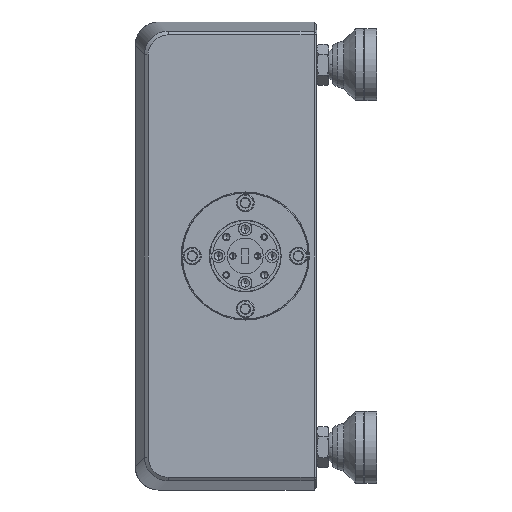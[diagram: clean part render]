
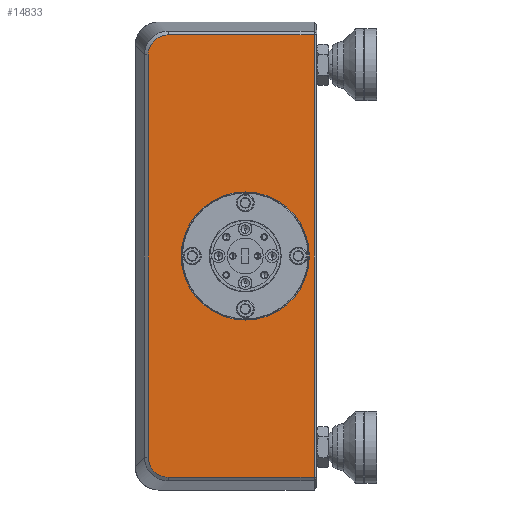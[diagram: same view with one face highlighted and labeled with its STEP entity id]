
A CAD part, left-side view. The second image highlights one B-rep face of the part: STEP entity #14833.
In plain terms, the highlighted planar face has unit normal (-1, 0, 0).
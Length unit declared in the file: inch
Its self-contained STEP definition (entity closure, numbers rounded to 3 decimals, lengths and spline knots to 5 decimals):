
#815 = CIRCLE ( 'NONE', #10292, 0.67 ) ;
#1484 = VERTEX_POINT ( 'NONE', #32061 ) ;
#1594 = CARTESIAN_POINT ( 'NONE',  ( -6.94473, 3.20938, -2.1034 ) ) ;
#2086 = CARTESIAN_POINT ( 'NONE',  ( -6.94473, 3.09329, -2.29129 ) ) ;
#3236 = FACE_BOUND ( 'NONE', #81859, .T. ) ;
#4180 = VERTEX_POINT ( 'NONE', #52712 ) ;
#5096 = DIRECTION ( 'NONE',  ( 0., -1., 0. ) ) ;
#5656 = VECTOR ( 'NONE', #87834, 39.37008 ) ;
#9313 = VERTEX_POINT ( 'NONE', #68229 ) ;
#10292 = AXIS2_PLACEMENT_3D ( 'NONE', #81209, #35149, #73381 ) ;
#10445 = CARTESIAN_POINT ( 'NONE',  ( -6.94473, 3.18192, -2.20829 ) ) ;
#11911 = CARTESIAN_POINT ( 'NONE',  ( -6.94473, 3.00046, -2.31232 ) ) ;
#13119 = EDGE_CURVE ( 'NONE', #17609, #68840, #86967, .T. ) ;
#13652 = CARTESIAN_POINT ( 'NONE',  ( -6.94473, 3.09328, 2.2913 ) ) ;
#14625 = CARTESIAN_POINT ( 'NONE',  ( -6.94473, 3.16667, 2.23117 ) ) ;
#14833 = ADVANCED_FACE ( 'NONE', ( #86202, #3236 ), #78324, .F. ) ;
#15715 = B_SPLINE_CURVE_WITH_KNOTS ( 'NONE', 3,
 ( #75207, #89224, #87758, #20556, #51440, #13652, #88751, #58832, #95556, #21553, #14625, #97004, #36226, #22017, #88256, #81338, #66634, #28389 ),
 .UNSPECIFIED., .F., .F.,
 ( 4, 2, 2, 2, 2, 2, 2, 2, 4 ),
 ( 0., 0.125, 0.25, 0.375, 0.5, 0.625, 0.75, 0.875, 1. ),
 .UNSPECIFIED. ) ;
#17609 = VERTEX_POINT ( 'NONE', #24877 ) ;
#17839 = CARTESIAN_POINT ( 'NONE',  ( -6.94473, 3.13879, -2.26097 ) ) ;
#18445 = VECTOR ( 'NONE', #27507, 39.37008 ) ;
#19090 = ORIENTED_EDGE ( 'NONE', *, *, #67886, .T. ) ;
#19569 = VERTEX_POINT ( 'NONE', #61924 ) ;
#19686 = ORIENTED_EDGE ( 'NONE', *, *, #45040, .T. ) ;
#20556 = CARTESIAN_POINT ( 'NONE',  ( -6.94473, 3.05495, 2.30563 ) ) ;
#21441 = AXIS2_PLACEMENT_3D ( 'NONE', #81599, #63131, #41518 ) ;
#21553 = CARTESIAN_POINT ( 'NONE',  ( -6.94473, 3.15802, 2.24174 ) ) ;
#21618 = CARTESIAN_POINT ( 'NONE',  ( -6.94473, 3.20938, 0. ) ) ;
#21892 = B_SPLINE_CURVE_WITH_KNOTS ( 'NONE', 3,
 ( #1594, #61504, #55104, #77142, #69322, #90946, #10445, #76667, #85028, #17839, #47750, #91438, #2086, #32060, #23761, #53675, #47245, #11911 ),
 .UNSPECIFIED., .F., .F.,
 ( 4, 2, 2, 2, 2, 2, 2, 2, 4 ),
 ( 0., 0.125, 0.25, 0.375, 0.5, 0.625, 0.75, 0.875, 1. ),
 .UNSPECIFIED. ) ;
#21959 = EDGE_CURVE ( 'NONE', #93373, #4180, #15715, .T. ) ;
#22017 = CARTESIAN_POINT ( 'NONE',  ( -6.94473, 3.19874, 2.17101 ) ) ;
#23761 = CARTESIAN_POINT ( 'NONE',  ( -6.94473, 3.05498, -2.30563 ) ) ;
#24877 = CARTESIAN_POINT ( 'NONE',  ( -6.94473, 2.1943, -0.67 ) ) ;
#26856 = DIRECTION ( 'NONE',  ( -1., 0., 0. ) ) ;
#27507 = DIRECTION ( 'NONE',  ( 0., 0., 1. ) ) ;
#28389 = CARTESIAN_POINT ( 'NONE',  ( -6.94473, 3.20938, 2.1034 ) ) ;
#31222 = ORIENTED_EDGE ( 'NONE', *, *, #13119, .F. ) ;
#32060 = CARTESIAN_POINT ( 'NONE',  ( -6.94473, 3.06807, -2.30169 ) ) ;
#32061 = CARTESIAN_POINT ( 'NONE',  ( -6.94473, 3.20938, -2.1034 ) ) ;
#35149 = DIRECTION ( 'NONE',  ( -1., 0., 0. ) ) ;
#35570 = CARTESIAN_POINT ( 'NONE',  ( -6.94473, 2.3943, -2.31232 ) ) ;
#36226 = CARTESIAN_POINT ( 'NONE',  ( -6.94473, 3.18834, 2.19624 ) ) ;
#39705 = VERTEX_POINT ( 'NONE', #89933 ) ;
#41518 = DIRECTION ( 'NONE',  ( 0., 1., 0. ) ) ;
#45040 = EDGE_CURVE ( 'NONE', #1484, #39705, #21892, .T. ) ;
#46172 = ORIENTED_EDGE ( 'NONE', *, *, #61991, .T. ) ;
#47245 = CARTESIAN_POINT ( 'NONE',  ( -6.94473, 3.01423, -2.31232 ) ) ;
#47750 = CARTESIAN_POINT ( 'NONE',  ( -6.94473, 3.12822, -2.26962 ) ) ;
#49349 = AXIS2_PLACEMENT_3D ( 'NONE', #63148, #26856, #56793 ) ;
#50153 = EDGE_CURVE ( 'NONE', #39705, #19569, #86606, .T. ) ;
#51440 = CARTESIAN_POINT ( 'NONE',  ( -6.94473, 3.06808, 2.30168 ) ) ;
#52655 = LINE ( 'NONE', #77071, #67406 ) ;
#52712 = CARTESIAN_POINT ( 'NONE',  ( -6.94473, 3.20938, 2.1034 ) ) ;
#53675 = CARTESIAN_POINT ( 'NONE',  ( -6.94473, 3.02789, -2.31099 ) ) ;
#55104 = CARTESIAN_POINT ( 'NONE',  ( -6.94473, 3.20803, -2.13082 ) ) ;
#56793 = DIRECTION ( 'NONE',  ( 0., 0., 1. ) ) ;
#57839 = EDGE_CURVE ( 'NONE', #68840, #17609, #815, .T. ) ;
#58832 = CARTESIAN_POINT ( 'NONE',  ( -6.94473, 3.12822, 2.26962 ) ) ;
#59323 = EDGE_CURVE ( 'NONE', #4180, #1484, #65271, .T. ) ;
#60146 = CARTESIAN_POINT ( 'NONE',  ( -6.94473, 3.00046, 2.31232 ) ) ;
#61504 = CARTESIAN_POINT ( 'NONE',  ( -6.94473, 3.20938, -2.11713 ) ) ;
#61924 = CARTESIAN_POINT ( 'NONE',  ( -6.94473, 1.4743, -2.31232 ) ) ;
#61991 = EDGE_CURVE ( 'NONE', #19569, #9313, #79951, .T. ) ;
#62116 = ORIENTED_EDGE ( 'NONE', *, *, #50153, .T. ) ;
#63131 = DIRECTION ( 'NONE',  ( 1., 0., 0. ) ) ;
#63148 = CARTESIAN_POINT ( 'NONE',  ( -6.94473, 2.1943, 0. ) ) ;
#65271 = LINE ( 'NONE', #21618, #5656 ) ;
#66634 = CARTESIAN_POINT ( 'NONE',  ( -6.94473, 3.20938, 2.11717 ) ) ;
#67406 = VECTOR ( 'NONE', #89938, 39.37008 ) ;
#67597 = VECTOR ( 'NONE', #5096, 39.37008 ) ;
#67886 = EDGE_CURVE ( 'NONE', #9313, #93373, #52655, .T. ) ;
#68229 = CARTESIAN_POINT ( 'NONE',  ( -6.94473, 1.4743, 2.31232 ) ) ;
#68840 = VERTEX_POINT ( 'NONE', #89051 ) ;
#69322 = CARTESIAN_POINT ( 'NONE',  ( -6.94473, 3.19873, -2.17102 ) ) ;
#73381 = DIRECTION ( 'NONE',  ( 0., 0., 1. ) ) ;
#74076 = CARTESIAN_POINT ( 'NONE',  ( -6.94473, 1.4743, 0. ) ) ;
#75207 = CARTESIAN_POINT ( 'NONE',  ( -6.94473, 3.00046, 2.31232 ) ) ;
#76667 = CARTESIAN_POINT ( 'NONE',  ( -6.94473, 3.16667, -2.23117 ) ) ;
#77071 = CARTESIAN_POINT ( 'NONE',  ( -6.94473, 2.3943, 2.31232 ) ) ;
#77142 = CARTESIAN_POINT ( 'NONE',  ( -6.94473, 3.20269, -2.1579 ) ) ;
#78324 = PLANE ( 'NONE',  #21441 ) ;
#79951 = LINE ( 'NONE', #74076, #18445 ) ;
#81209 = CARTESIAN_POINT ( 'NONE',  ( -6.94473, 2.1943, 0. ) ) ;
#81338 = CARTESIAN_POINT ( 'NONE',  ( -6.94473, 3.20804, 2.13083 ) ) ;
#81499 = ORIENTED_EDGE ( 'NONE', *, *, #59323, .T. ) ;
#81599 = CARTESIAN_POINT ( 'NONE',  ( -6.94473, 2.3943, 0. ) ) ;
#81859 = EDGE_LOOP ( 'NONE', ( #96860, #31222 ) ) ;
#85028 = CARTESIAN_POINT ( 'NONE',  ( -6.94473, 3.15802, -2.24174 ) ) ;
#86202 = FACE_OUTER_BOUND ( 'NONE', #88619, .T. ) ;
#86606 = LINE ( 'NONE', #35570, #67597 ) ;
#86967 = CIRCLE ( 'NONE', #49349, 0.67 ) ;
#87758 = CARTESIAN_POINT ( 'NONE',  ( -6.94473, 3.02787, 2.31098 ) ) ;
#87834 = DIRECTION ( 'NONE',  ( 0., 0., -1. ) ) ;
#88256 = CARTESIAN_POINT ( 'NONE',  ( -6.94473, 3.20268, 2.15793 ) ) ;
#88619 = EDGE_LOOP ( 'NONE', ( #19686, #62116, #46172, #19090, #94157, #81499 ) ) ;
#88751 = CARTESIAN_POINT ( 'NONE',  ( -6.94473, 3.10535, 2.28486 ) ) ;
#89051 = CARTESIAN_POINT ( 'NONE',  ( -6.94473, 2.1943, 0.67 ) ) ;
#89224 = CARTESIAN_POINT ( 'NONE',  ( -6.94473, 3.01419, 2.31232 ) ) ;
#89933 = CARTESIAN_POINT ( 'NONE',  ( -6.94473, 3.00046, -2.31232 ) ) ;
#89938 = DIRECTION ( 'NONE',  ( 0., 1., 0. ) ) ;
#90946 = CARTESIAN_POINT ( 'NONE',  ( -6.94473, 3.18835, -2.19623 ) ) ;
#91438 = CARTESIAN_POINT ( 'NONE',  ( -6.94473, 3.10535, -2.28486 ) ) ;
#93373 = VERTEX_POINT ( 'NONE', #60146 ) ;
#94157 = ORIENTED_EDGE ( 'NONE', *, *, #21959, .T. ) ;
#95556 = CARTESIAN_POINT ( 'NONE',  ( -6.94473, 3.13879, 2.26096 ) ) ;
#96860 = ORIENTED_EDGE ( 'NONE', *, *, #57839, .F. ) ;
#97004 = CARTESIAN_POINT ( 'NONE',  ( -6.94473, 3.18192, 2.2083 ) ) ;
